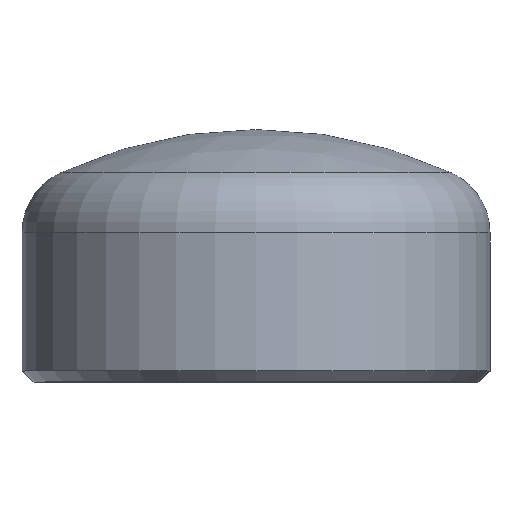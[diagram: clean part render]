
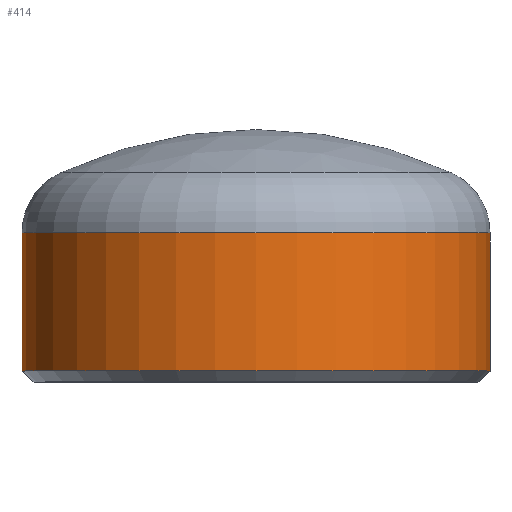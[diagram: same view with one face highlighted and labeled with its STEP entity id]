
A CAD part, top view. The second image highlights one B-rep face of the part: STEP entity #414.
In plain terms, the highlighted cylindrical face has radius 70.65 mm (diameter 141.3 mm), a partial arc.
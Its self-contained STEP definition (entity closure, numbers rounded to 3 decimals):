
#25 = VERTEX_POINT ( 'NONE', #204 ) ;
#45 = AXIS2_PLACEMENT_3D ( 'NONE', #97, #350, #67 ) ;
#65 = CYLINDRICAL_SURFACE ( 'NONE', #45, 70.65 ) ;
#67 = DIRECTION ( 'NONE',  ( -1., 0., 0. ) ) ;
#68 = LINE ( 'NONE', #403, #293 ) ;
#75 = ORIENTED_EDGE ( 'NONE', *, *, #199, .F. ) ;
#77 = ORIENTED_EDGE ( 'NONE', *, *, #349, .F. ) ;
#80 = CARTESIAN_POINT ( 'NONE',  ( -70.65, 44.987, 0. ) ) ;
#84 = CARTESIAN_POINT ( 'NONE',  ( 0., 44.987, 0. ) ) ;
#96 = EDGE_CURVE ( 'NONE', #270, #25, #366, .T. ) ;
#97 = CARTESIAN_POINT ( 'NONE',  ( 0., 2817.965, 0. ) ) ;
#119 = EDGE_CURVE ( 'NONE', #25, #166, #237, .T. ) ;
#145 = CARTESIAN_POINT ( 'NONE',  ( 70.65, 44.987, 0. ) ) ;
#159 = AXIS2_PLACEMENT_3D ( 'NONE', #266, #389, #230 ) ;
#166 = VERTEX_POINT ( 'NONE', #145 ) ;
#182 = CIRCLE ( 'NONE', #198, 70.65 ) ;
#183 = ORIENTED_EDGE ( 'NONE', *, *, #119, .T. ) ;
#191 = VECTOR ( 'NONE', #347, 1000. ) ;
#198 = AXIS2_PLACEMENT_3D ( 'NONE', #84, #371, #222 ) ;
#199 = EDGE_CURVE ( 'NONE', #270, #277, #68, .T. ) ;
#204 = CARTESIAN_POINT ( 'NONE',  ( 70.65, 3.3, 0. ) ) ;
#207 = DIRECTION ( 'NONE',  ( 0., 1., 0. ) ) ;
#222 = DIRECTION ( 'NONE',  ( -1., 0., 0. ) ) ;
#230 = DIRECTION ( 'NONE',  ( 1., 0., 0. ) ) ;
#234 = CARTESIAN_POINT ( 'NONE',  ( 70.65, 2817.965, 0. ) ) ;
#237 = LINE ( 'NONE', #234, #191 ) ;
#266 = CARTESIAN_POINT ( 'NONE',  ( 0., 3.3, 0. ) ) ;
#270 = VERTEX_POINT ( 'NONE', #365 ) ;
#277 = VERTEX_POINT ( 'NONE', #80 ) ;
#293 = VECTOR ( 'NONE', #207, 1000. ) ;
#320 = FACE_OUTER_BOUND ( 'NONE', #400, .T. ) ;
#347 = DIRECTION ( 'NONE',  ( 0., 1., 0. ) ) ;
#349 = EDGE_CURVE ( 'NONE', #277, #166, #182, .T. ) ;
#350 = DIRECTION ( 'NONE',  ( 0., 1., 0. ) ) ;
#365 = CARTESIAN_POINT ( 'NONE',  ( -70.65, 3.3, 0. ) ) ;
#366 = CIRCLE ( 'NONE', #159, 70.65 ) ;
#371 = DIRECTION ( 'NONE',  ( 0., 1., 0. ) ) ;
#389 = DIRECTION ( 'NONE',  ( 0., 1., 0. ) ) ;
#400 = EDGE_LOOP ( 'NONE', ( #459, #183, #77, #75 ) ) ;
#403 = CARTESIAN_POINT ( 'NONE',  ( -70.65, 2817.965, 0. ) ) ;
#414 = ADVANCED_FACE ( 'NONE', ( #320 ), #65, .T. ) ;
#459 = ORIENTED_EDGE ( 'NONE', *, *, #96, .T. ) ;
